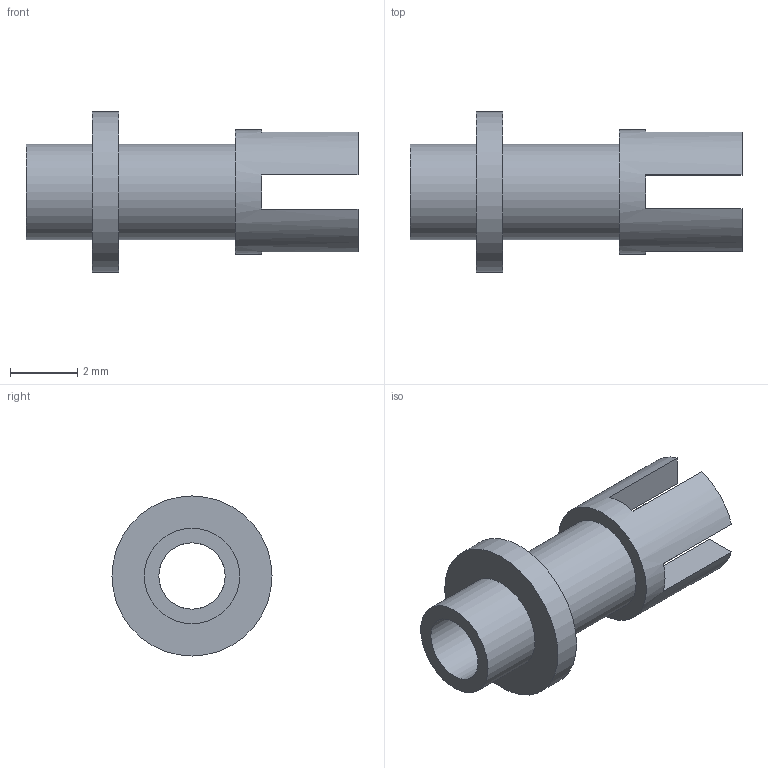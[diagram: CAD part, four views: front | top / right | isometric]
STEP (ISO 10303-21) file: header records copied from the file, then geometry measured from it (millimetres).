
FILE_DESCRIPTION(/* description */ (''),/* implementation_level */ '2;1');
FILE_NAME(/* name */ 'Z:\STEP folder\140-1010-01.ipt.stp',/* time_stamp */ '2016-12-07T10:38:03+00:00',/* author */ ('Paul Karlsons'),/* organization */ (''),/* preprocessor_version */ 'ST-DEVELOPER v15.2',/* originating_system */ 'Autodesk Inventor 2014',/* authorisation */ '');
FILE_SCHEMA (('AUTOMOTIVE_DESIGN { 1 0 10303 214 3 1 1 }'));
Length unit declared in the file: millimetre
Products named in the file (1): 140-1010-01
Bounding box: 9.91 x 4.78 x 4.78 mm (x, y, z)
Volume: 47.5 mm3; surface area: 200.8 mm2
Topology: 1 solids, 1 shells, 25 faces, 63 edges, 42 vertices
Faces by surface type: plane 20, cylinder 5
Full cylindrical faces by diameter (mm): 1.981 x1, 2.845 x2, 3.708 x1, 4.775 x1
Entity records: 743 total; most frequent: DIRECTION 132, CARTESIAN_POINT 122, ORIENTED_EDGE 112, EDGE_CURVE 56, AXIS2_PLACEMENT_3D 50, VERTEX_POINT 40, EDGE_LOOP 34, LINE 32
